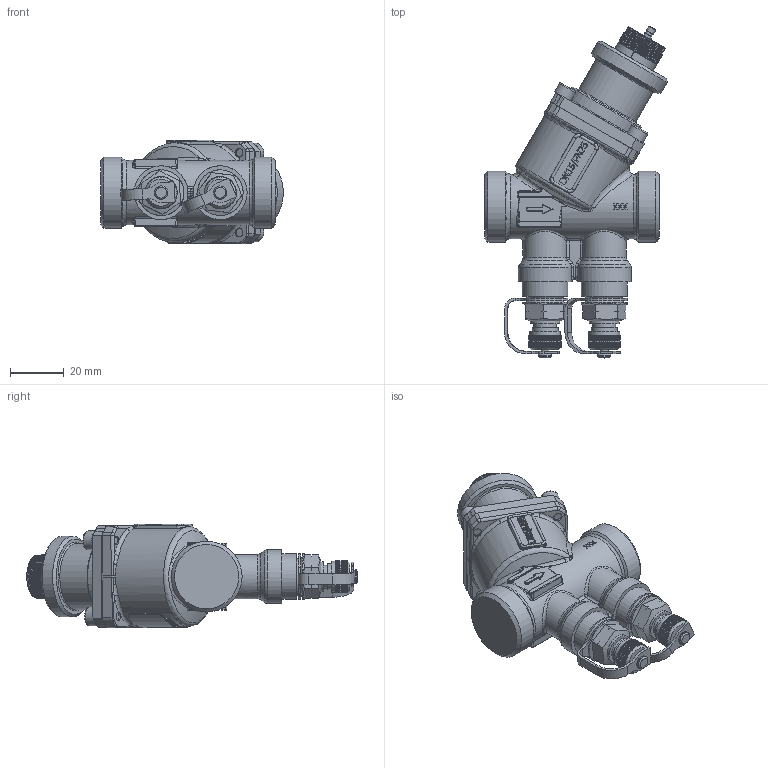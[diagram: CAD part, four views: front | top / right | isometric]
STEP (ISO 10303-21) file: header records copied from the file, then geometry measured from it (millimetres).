
FILE_DESCRIPTION((''),'2;1');
FILE_NAME('F:\Marketing\1marketing\Tegninger\Frese OPTIMA Compact\3D models\OPTIMA Compact MM DN15 PT.stp','2012-09-05T15:00:17',('JJO'),(''),'Autodesk Inventor 2012','Autodesk Inventor 2012','');
FILE_SCHEMA(('AUTOMOTIVE_DESIGN { 1 0 10303 214 1 1 1 1 }'));
Length unit declared in the file: millimetre
Products named in the file (1): 53-1324_Shrinkwrap_1
Bounding box: 67.99 x 123.51 x 38.5 mm (x, y, z)
Surface area: 57082.6 mm2 (no closed solid volume)
Topology: 0 solids, 50 shells, 3513 faces, 9534 edges, 6175 vertices
Faces by surface type: plane 1964, cylinder 836, bspline 483, torus 119, cone 96, sphere 10, revolution 5
Full cylindrical faces by diameter (mm): 2.5 x1, 2.9 x2, 3 x3, 3.2 x2, 3.242 x4, 4 x5, 5 x3, 5.2 x1, 5.4 x2, 6 x2, 7 x4, 8 x1, 8.5 x2, 8.92 x1, 9.1 x1, 9.3 x1, 9.728 x2, 10 x1, 11 x3, 11.5 x2, 11.7 x2, 12.5 x1, 13.157 x2, 13.9 x2, 14 x1, 15 x2, 15.4 x1, 16.4 x1, 16.5 x2, 17 x5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
Entity records: 148476 total; most frequent: CARTESIAN_POINT 61596, ORIENTED_EDGE 18530, DIRECTION 15787, EDGE_CURVE 9265, VERTEX_POINT 6144, AXIS2_PLACEMENT_3D 5647, VECTOR 4488, LINE 4488
